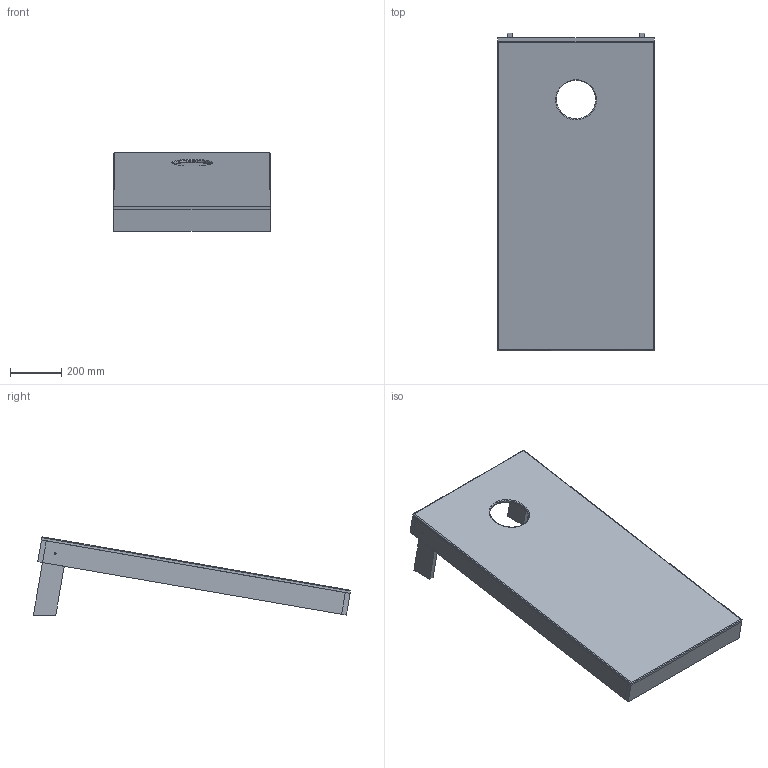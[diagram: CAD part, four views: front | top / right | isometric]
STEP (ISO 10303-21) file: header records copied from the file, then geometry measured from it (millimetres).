
FILE_DESCRIPTION ((), '1');
FILE_NAME ('/Volumes/Data/Drawings/Moi3D/cornhole/cornhole 3d 20210605.stp', '2021-06-05T15:47:28', ('Unknown'), ('Unknown'), 'HarmonyWare STEP v2.1.4', 'HarmonyWare Translators', '');
FILE_SCHEMA (('CONFIG_CONTROL_DESIGN'));
Length unit declared in the file: inch
Products named in the file (11): Leg; doubler; top; cross member
Assembly tree (10 placements, depth 2):
  (unnamed)
    (unnamed)
    (unnamed)
    Leg
    doubler
    (unnamed)
    Leg
    doubler
    (unnamed)
    top
    cross member
Bounding box: 609.6 x 1234.24 x 304.37 mm (x, y, z)
Volume: 17257404.1 mm3; surface area: 2573938.6 mm2
Topology: 10 solids, 10 shells, 75 faces, 163 edges, 108 vertices
Faces by surface type: bspline 75
Entity records: 5421 total; most frequent: CARTESIAN_POINT 2852, ORIENTED_EDGE 326, EDGE_CURVE 163, B_SPLINE_CURVE_WITH_KNOTS 145, PERSON 108, ORGANIZATION 108, PERSON_AND_ORGANIZATION 108, VERTEX_POINT 108
